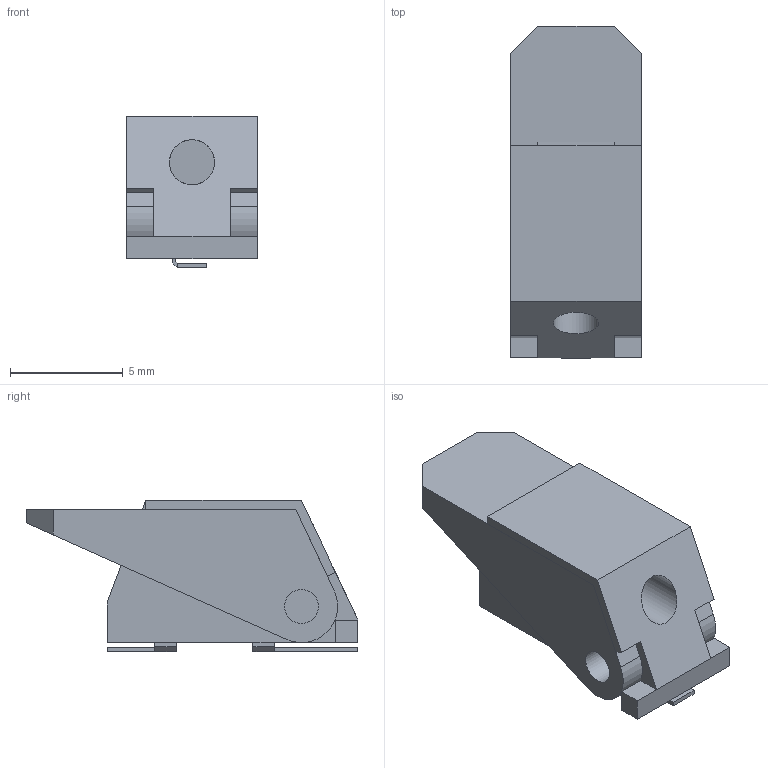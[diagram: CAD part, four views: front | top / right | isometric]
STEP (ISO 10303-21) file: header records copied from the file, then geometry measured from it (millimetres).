
FILE_DESCRIPTION(('FreeCAD Model'),'2;1');
FILE_NAME('Open CASCADE Shape Model','2025-01-28T21:10:31',( 'Krisjanis Rijnieks'),(''),'Open CASCADE STEP processor 7.7', 'FreeCAD','Unknown');
FILE_SCHEMA(('AUTOMOTIVE_DESIGN { 1 0 10303 214 1 1 1 1 }'));
Length unit declared in the file: millimetre
Products named in the file (4): SM99S01VBNN05G7; Contact; InnerBody; OuterBody
Assembly tree (3 placements, depth 2):
  SM99S01VBNN05G7
    Contact
    InnerBody
    OuterBody
Bounding box: 5.8 x 14.7 x 6.7 mm (x, y, z)
Volume: 331.3 mm3; surface area: 688.4 mm2
Topology: 3 solids, 3 shells, 64 faces, 159 edges, 102 vertices
Faces by surface type: plane 59, cylinder 5
Full cylindrical faces by diameter (mm): 1.5 x2, 2 x1
Entity records: 1959 total; most frequent: CARTESIAN_POINT 329, ORIENTED_EDGE 318, DIRECTION 305, EDGE_CURVE 159, LINE 149, VECTOR 149, VERTEX_POINT 102, AXIS2_PLACEMENT_3D 78
